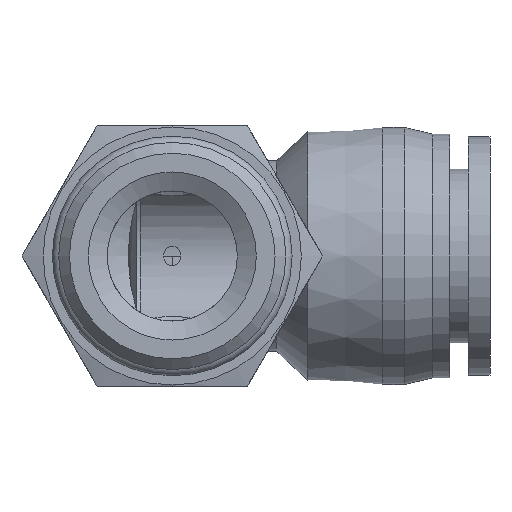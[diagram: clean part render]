
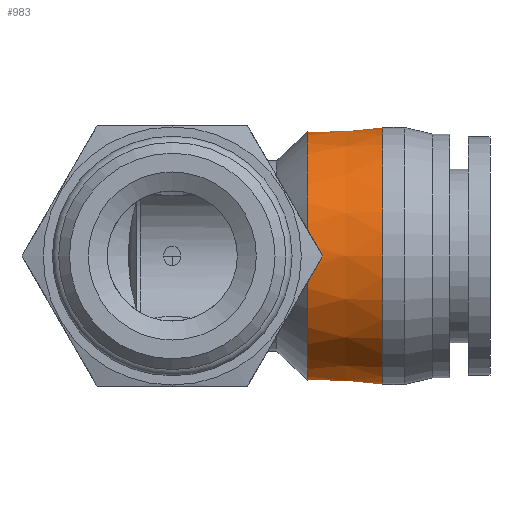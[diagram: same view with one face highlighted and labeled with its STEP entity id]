
A CAD part, front view. The second image highlights one B-rep face of the part: STEP entity #983.
In plain terms, the highlighted conical face has half-angle 2.904 degrees and reference radius 11.675 mm.
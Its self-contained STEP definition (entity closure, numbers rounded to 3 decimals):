
#21=ELLIPSE('',#1051,17.211,12.126);
#22=ELLIPSE('',#1052,17.211,12.126);
#152=FACE_OUTER_BOUND('',#219,.T.);
#219=EDGE_LOOP('',(#844,#845,#846,#847,#848,#849,#850,#851,#852));
#248=LINE('',#1734,#285);
#252=LINE('',#1748,#289);
#266=LINE('',#1934,#303);
#285=VECTOR('',#1230,10.);
#289=VECTOR('',#1244,10.);
#303=VECTOR('',#1396,11.675);
#363=CIRCLE('',#1119,11.5);
#364=CIRCLE('',#1121,11.85);
#365=CIRCLE('',#1122,11.85);
#413=VERTEX_POINT('',#1729);
#414=VERTEX_POINT('',#1733);
#416=VERTEX_POINT('',#1739);
#417=VERTEX_POINT('',#1741);
#419=VERTEX_POINT('',#1747);
#461=VERTEX_POINT('',#1930);
#462=VERTEX_POINT('',#1931);
#520=EDGE_CURVE('',#414,#413,#248,.T.);
#523=EDGE_CURVE('',#416,#414,#21,.T.);
#524=EDGE_CURVE('',#417,#416,#22,.T.);
#527=EDGE_CURVE('',#419,#417,#252,.T.);
#598=EDGE_CURVE('',#413,#419,#363,.T.);
#599=EDGE_CURVE('',#461,#462,#364,.T.);
#600=EDGE_CURVE('',#462,#461,#365,.T.);
#601=EDGE_CURVE('',#462,#416,#266,.T.);
#844=ORIENTED_EDGE('',*,*,#599,.F.);
#845=ORIENTED_EDGE('',*,*,#600,.F.);
#846=ORIENTED_EDGE('',*,*,#601,.T.);
#847=ORIENTED_EDGE('',*,*,#523,.T.);
#848=ORIENTED_EDGE('',*,*,#520,.T.);
#849=ORIENTED_EDGE('',*,*,#598,.T.);
#850=ORIENTED_EDGE('',*,*,#527,.T.);
#851=ORIENTED_EDGE('',*,*,#524,.T.);
#852=ORIENTED_EDGE('',*,*,#601,.F.);
#934=CONICAL_SURFACE('',#1120,11.675,0.051);
#983=ADVANCED_FACE('',(#152),#934,.T.);
#1051=AXIS2_PLACEMENT_3D('',#1740,#1236,#1237);
#1052=AXIS2_PLACEMENT_3D('',#1742,#1238,#1239);
#1119=AXIS2_PLACEMENT_3D('',#1928,#1388,#1389);
#1120=AXIS2_PLACEMENT_3D('',#1929,#1390,#1391);
#1121=AXIS2_PLACEMENT_3D('',#1932,#1392,#1393);
#1122=AXIS2_PLACEMENT_3D('',#1933,#1394,#1395);
#1230=DIRECTION('',(-0.999,0.051,0.));
#1236=DIRECTION('center_axis',(0.705,-0.709,0.));
#1237=DIRECTION('ref_axis',(0.709,0.705,0.));
#1238=DIRECTION('center_axis',(0.705,-0.709,0.));
#1239=DIRECTION('ref_axis',(0.709,0.705,0.));
#1244=DIRECTION('',(0.999,-0.051,0.));
#1388=DIRECTION('center_axis',(1.,0.,0.));
#1389=DIRECTION('ref_axis',(0.,0.,-1.));
#1390=DIRECTION('center_axis',(1.,0.,0.));
#1391=DIRECTION('ref_axis',(0.,1.,0.));
#1392=DIRECTION('center_axis',(1.,0.,0.));
#1393=DIRECTION('ref_axis',(0.,0.,-1.));
#1394=DIRECTION('center_axis',(1.,0.,0.));
#1395=DIRECTION('ref_axis',(0.,0.,-1.));
#1396=DIRECTION('',(-0.999,0.051,0.));
#1729=CARTESIAN_POINT('',(12.5,-11.456,-1.));
#1733=CARTESIAN_POINT('',(13.004,-11.482,-1.));
#1734=CARTESIAN_POINT('',(13.086,-11.486,-1.));
#1739=CARTESIAN_POINT('',(12.963,-11.523,0.));
#1740=CARTESIAN_POINT('Origin',(25.161,0.619,0.));
#1741=CARTESIAN_POINT('',(13.004,-11.482,1.));
#1742=CARTESIAN_POINT('Origin',(25.161,0.619,0.));
#1747=CARTESIAN_POINT('',(12.5,-11.456,1.));
#1748=CARTESIAN_POINT('',(13.086,-11.486,1.));
#1928=CARTESIAN_POINT('Origin',(12.5,0.,0.));
#1929=CARTESIAN_POINT('Origin',(15.95,0.,0.));
#1930=CARTESIAN_POINT('',(19.4,11.85,0.));
#1931=CARTESIAN_POINT('',(19.4,-11.85,0.));
#1932=CARTESIAN_POINT('Origin',(19.4,0.,0.));
#1933=CARTESIAN_POINT('Origin',(19.4,0.,0.));
#1934=CARTESIAN_POINT('',(15.95,-11.675,0.));
